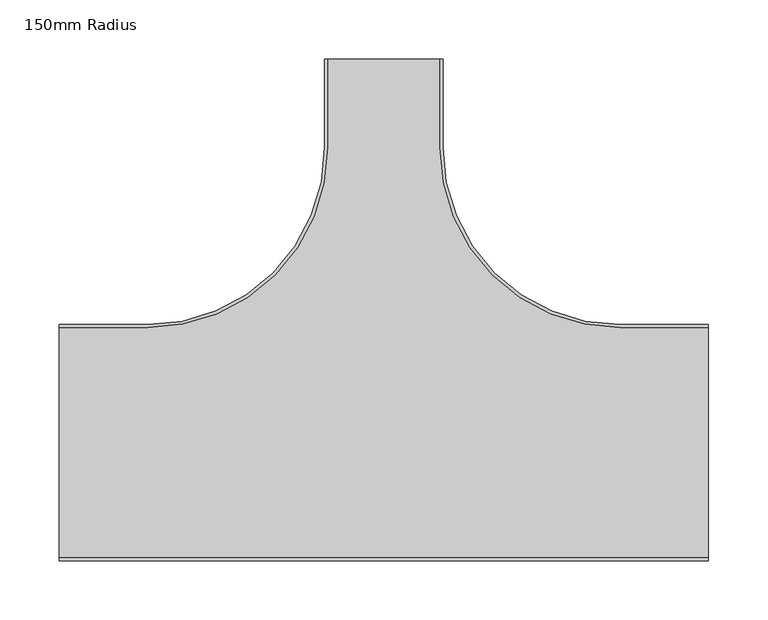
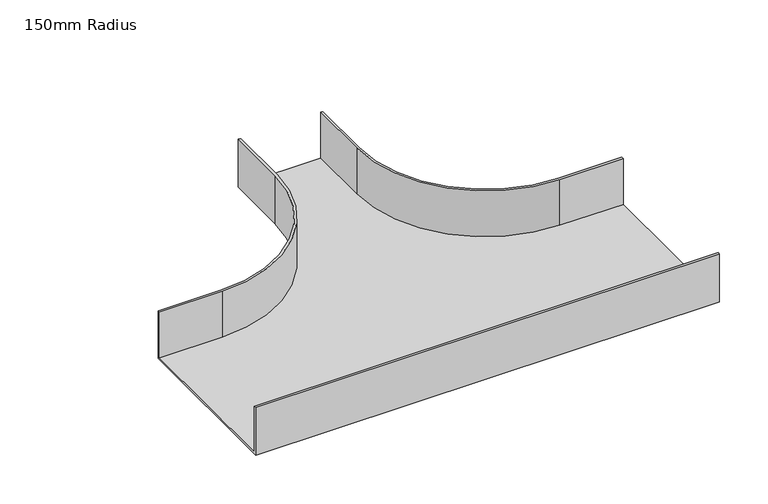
"""IFC4 building model written with IfcOpenShell, lengths in millimetres: cable carrier fitting geometry, AI_Raccord cdc_Té : 150mm Radius."""

from ifc_helpers import new_model, si_unit, frame, origin, place, context, project, spatial, polyline, circle_curve, source, transform, mapped, element, save
from ifc_brep_helpers import plane_surface, cylinder_surface, revolved_surface, advanced_brep


def cable_carrier_fitting_150mm_radius_438d9341(model_context):
    return source(origin(), model_context, "Body", "AdvancedBrep", [
        advanced_brep(
        [(-50.0, 250.0, 30.0), (-200.0, 100.0, 30.0), (-275.0, 100.0, 30.0), (-275.0, 97.46, 30.0), (-200.0, 97.46, 30.0), (-47.46, 250.0, 30.0), (-47.46, 325.0, 30.0), (-50.0, 325.0, 30.0), (50.0, 250.0, 30.0), (50.0, 325.0, 30.0), (47.46, 325.0, 30.0), (47.46, 250.0, 30.0), (200.0, 97.46, 30.0), (275.0, 97.46, 30.0), (275.0, 100.0, 30.0), (200.0, 100.0, 30.0), (275.0, -100.0, 30.0), (275.0, -97.46, 30.0), (-275.0, -97.46, 30.0), (-275.0, -100.0, 30.0), (-50.0, 250.0, -30.0), (-50.0, 325.0, -30.0), (50.0, 325.0, -30.0), (50.0, 250.0, -30.0), (200.0, 100.0, -30.0), (275.0, 100.0, -30.0), (275.0, -100.0, -30.0), (-275.0, -100.0, -30.0), (-275.0, 100.0, -30.0), (-200.0, 100.0, -30.0), (-50.0, 250.0, -27.46), (-47.46, 325.0, -27.46), (47.46, 325.0, -27.46), (-47.46, 250.0, -27.46), (-200.0, 97.46, -27.46), (-275.0, 97.46, -27.46), (-275.0, -97.46, -27.46), (-200.0, 100.0, -27.46), (200.0, 100.0, -27.46), (50.0, 250.0, -27.46), (275.0, 97.46, -27.46), (275.0, -97.46, -27.46), (200.0, 97.46, -27.46), (47.46, 250.0, -27.46)],
        [
            (0, 1, circle_curve(frame((-200.0, 250.0, 30.0), z_axis=(0.0, 0.0, -1.0), x_axis=(1.0, 0.0, 0.0)), 150.0)),
            (1, 2),
            (2, 3),
            (3, 4),
            (4, 5, circle_curve(frame((-200.0, 250.0, 30.0), z_axis=(0.0, 0.0, 1.0), x_axis=(1.0, 0.0, 0.0)), 152.54)),
            (5, 6),
            (6, 7),
            (7, 0),
            (8, 9),
            (9, 10),
            (10, 11),
            (11, 12, circle_curve(frame((200.0, 250.0, 30.0), z_axis=(0.0, 0.0, 1.0), x_axis=(1.0, 0.0, 0.0)), 152.54)),
            (12, 13),
            (13, 14),
            (14, 15),
            (15, 8, circle_curve(frame((200.0, 250.0, 30.0), z_axis=(0.0, 0.0, -1.0), x_axis=(1.0, 0.0, 0.0)), 150.0)),
            (16, 17),
            (17, 18),
            (18, 19),
            (19, 16),
            (20, 21),
            (21, 22),
            (22, 23),
            (23, 24, circle_curve(frame((200.0, 250.0, -30.0), z_axis=(0.0, 0.0, 1.0), x_axis=(1.0, 0.0, 0.0)), 150.0)),
            (24, 25),
            (25, 26),
            (26, 27),
            (27, 28),
            (28, 29),
            (29, 20, circle_curve(frame((-200.0, 250.0, -30.0), z_axis=(0.0, 0.0, 1.0), x_axis=(1.0, 0.0, 0.0)), 150.0)),
            (20, 30),
            (30, 0),
            (7, 21),
            (6, 31),
            (31, 32),
            (32, 10),
            (9, 22),
            (5, 33),
            (33, 31),
            (4, 34),
            (34, 33, circle_curve(frame((-200.0, 250.0, -27.46), z_axis=(0.0, 0.0, 1.0), x_axis=(1.0, 0.0, 0.0)), 152.54)),
            (3, 35),
            (35, 34),
            (2, 28),
            (27, 19),
            (18, 36),
            (36, 35),
            (1, 37),
            (37, 29),
            (15, 38),
            (38, 24),
            (23, 39),
            (39, 8),
            (14, 25),
            (13, 40),
            (40, 41),
            (41, 17),
            (16, 26),
            (12, 42),
            (42, 40),
            (11, 43),
            (43, 42, circle_curve(frame((200.0, 250.0, -27.46), z_axis=(0.0, 0.0, 1.0), x_axis=(1.0, 0.0, 0.0)), 152.54)),
            (32, 43),
            (41, 36),
        ],
        [
            plane_surface(frame((-50.0, 250.0, 30.0), z_axis=(0.0, 0.0, 1.0), x_axis=(0.0, 1.0, 0.0))),
            plane_surface(frame((-50.0, 250.0, -30.0), z_axis=(0.0, 0.0, -1.0), x_axis=(0.0, -1.0, 0.0))),
            plane_surface(frame((-50.0, 250.0, 30.0), z_axis=(-1.0, 0.0, 0.0), x_axis=(0.0, 0.0, -1.0))),
            plane_surface(frame((-50.0, 325.0, 30.0), z_axis=(0.0, 1.0, 0.0), x_axis=(0.0, 0.0, -1.0))),
            plane_surface(frame((-47.46, 325.0, 30.0), z_axis=(1.0, 0.0, 0.0), x_axis=(0.0, 0.0, -1.0))),
            cylinder_surface(frame((-200.0, 250.0, -30.0), z_axis=(0.0, 0.0, 1.0), x_axis=(1.0, 0.0, 0.0)), 152.54),
            plane_surface(frame((-200.0, 97.46, 30.0), z_axis=(0.0, -1.0, 0.0), x_axis=(0.0, 0.0, -1.0))),
            plane_surface(frame((-275.0, 97.46, 30.0), z_axis=(-1.0, 0.0, 0.0), x_axis=(0.0, 0.0, -1.0))),
            plane_surface(frame((-275.0, 100.0, 30.0), z_axis=(0.0, 1.0, 0.0), x_axis=(0.0, 0.0, -1.0))),
            revolved_surface(polyline([(-50.0, 250.0, -30.0), (-50.0, 250.0, 30.0)]), (-200.0, 250.0, -30.0), (0.0, 0.0, -1.0)),
            revolved_surface(polyline([(350.0, 250.0, -30.0), (350.0, 250.0, 30.0)]), (200.0, 250.0, 0.0), (0.0, 0.0, -1.0)),
            plane_surface(frame((200.0, 100.0, 30.0), z_axis=(0.0, 1.0, 0.0), x_axis=(0.0, 0.0, -1.0))),
            plane_surface(frame((275.0, 100.0, 30.0), z_axis=(1.0, 0.0, 0.0), x_axis=(0.0, 0.0, -1.0))),
            plane_surface(frame((275.0, 97.46, 30.0), z_axis=(0.0, -1.0, 0.0), x_axis=(0.0, 0.0, -1.0))),
            cylinder_surface(frame((200.0, 250.0, 0.0), z_axis=(0.0, 0.0, 1.0), x_axis=(1.0, 0.0, 0.0)), 152.54),
            plane_surface(frame((47.46, 250.0, 30.0), z_axis=(-1.0, 0.0, 0.0), x_axis=(0.0, 0.0, -1.0))),
            plane_surface(frame((50.0, 325.0, 30.0), z_axis=(1.0, 0.0, 0.0), x_axis=(0.0, 0.0, -1.0))),
            plane_surface(frame((275.0, -100.0, 30.0), z_axis=(0.0, -1.0, 0.0), x_axis=(0.0, 0.0, -1.0))),
            plane_surface(frame((-275.0, -97.46, 30.0), z_axis=(0.0, 1.0, 0.0), x_axis=(0.0, 0.0, -1.0))),
            plane_surface(frame((-50.0, 250.0, -27.46), z_axis=(0.0, 0.0, 1.0), x_axis=(0.0, 1.0, 0.0))),
        ],
        [
            (0, [[1, 2, 3, 4, 5, 6, 7, 8]]),
            (0, [[9, 10, 11, 12, 13, 14, 15, 16]]),
            (0, [[17, 18, 19, 20]]),
            (1, [[21, 22, 23, 24, 25, 26, 27, 28, 29, 30]]),
            (2, [[-21, 31, 32, -8, 33]]),
            (3, [[34, 35, 36, -10, 37, -22, -33, -7]]),
            (4, [[38, 39, -34, -6]]),
            (5, [[40, 41, -38, -5]]),
            (6, [[42, 43, -40, -4]]),
            (7, [[44, -28, 45, -19, 46, 47, -42, -3]]),
            (8, [[48, 49, -29, -44, -2]]),
            (9, [[-32, -31, -30, -49, -48, -1]]),
            (10, [[50, 51, -24, 52, 53, -16]]),
            (11, [[-25, -51, -50, -15, 54]]),
            (12, [[55, 56, 57, -17, 58, -26, -54, -14]]),
            (13, [[59, 60, -55, -13]]),
            (14, [[61, 62, -59, -12]]),
            (15, [[-36, 63, -61, -11]]),
            (16, [[-53, -52, -23, -37, -9]]),
            (17, [[-27, -58, -20, -45]]),
            (18, [[-57, 64, -46, -18]]),
            (19, [[-39, -41, -43, -47, -64, -56, -60, -62, -63, -35]]),
        ],
    ),
    ])


if __name__ == "__main__":
    model = new_model("IFC4")
    model_context = context("Model", 3, world=origin())
    ifc_project = project(units=[si_unit("LENGTHUNIT", "METRE", prefix="MILLI")], contexts=[model_context])
    site = spatial("IfcSite", under=ifc_project)
    building = spatial("IfcBuilding", under=site)
    placement = place(None, origin())
    cable_carrier_fitting_150mm_radius_shape = cable_carrier_fitting_150mm_radius_438d9341(model_context)
    element("IfcCableCarrierFitting", 1, ObjectType="AI_Raccord cdc_Té : 150mm Radius", at=placement, inside=building, context=model_context, shape_type="MappedRepresentation", body=[
        mapped(cable_carrier_fitting_150mm_radius_shape, transform((0.0, 0.0, 0.0), x_axis=(1.0, 0.0, 0.0), y_axis=(0.0, 1.0, 0.0), z_axis=(0.0, 0.0, 1.0))),
    ])
    save(model, "model.ifc")
